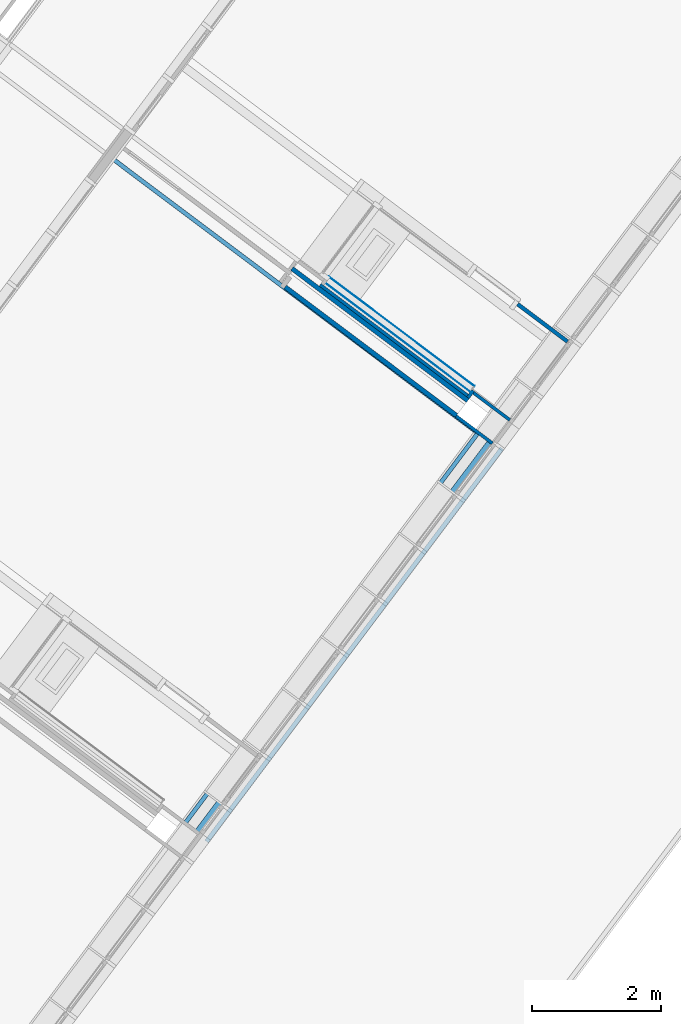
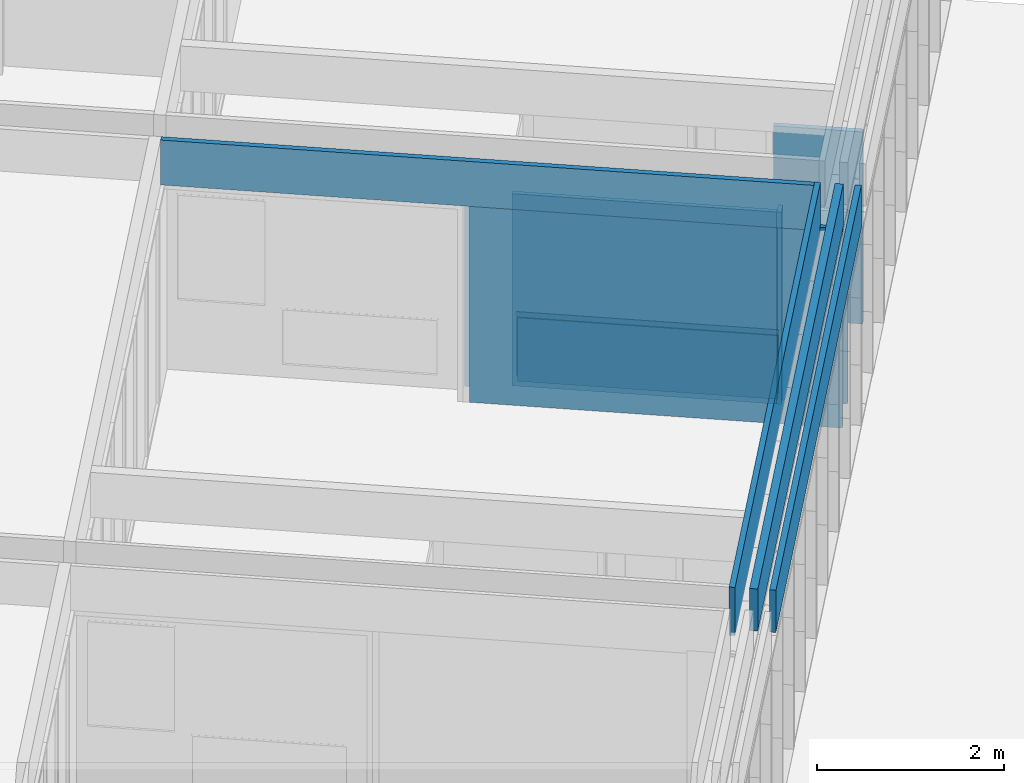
# One storey, part 121 of 243: 13 walls.
"""IFC2X3 building model written with IfcOpenShell, lengths in metres."""

from ifc_helpers import new_model, entity, si_unit, converted_unit, derived_unit, direction, frame, frame_2d, origin, place, context, subcontext, project, spatial, rectangle, extrude, material, layer, layer_set, layer_usage, type_object, element, save


model = new_model("IFC2X3")

# Units and contexts
model_context = context("Model", 3, precision=1e-05, world=origin(), true_north=direction((6.123031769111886e-17, 1.0)))
body_context = subcontext(model_context, "Body", "Model", "MODEL_VIEW")
ifc_project = project(units=[si_unit("LENGTHUNIT", "METRE"), si_unit("AREAUNIT", "SQUARE_METRE"), si_unit("VOLUMEUNIT", "CUBIC_METRE"), converted_unit("PLANEANGLEUNIT", "DEGREE", entity("IfcRatioMeasure", 0.017453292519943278), si_unit("PLANEANGLEUNIT", "RADIAN"), dimensions=[0, 0, 0, 0, 0, 0, 0]), si_unit("MASSUNIT", "GRAM", prefix="KILO"), derived_unit("MASSDENSITYUNIT", [(si_unit("MASSUNIT", "GRAM", prefix="KILO"), 1), (si_unit("LENGTHUNIT", "METRE"), -3)]), derived_unit("IONCONCENTRATIONUNIT", [(si_unit("MASSUNIT", "GRAM", prefix="KILO"), 1), (si_unit("LENGTHUNIT", "METRE"), -3)]), derived_unit("MOMENTOFINERTIAUNIT", [(si_unit("LENGTHUNIT", "METRE"), 4)]), si_unit("TIMEUNIT", "SECOND"), si_unit("FREQUENCYUNIT", "HERTZ"), si_unit("THERMODYNAMICTEMPERATUREUNIT", "DEGREE_CELSIUS"), derived_unit("THERMALTRANSMITTANCEUNIT", [(si_unit("MASSUNIT", "GRAM", prefix="KILO"), 1), (si_unit("THERMODYNAMICTEMPERATUREUNIT", "KELVIN"), -1), (si_unit("TIMEUNIT", "SECOND"), -3)]), derived_unit("THERMALCONDUCTANCEUNIT", [(si_unit("MASSUNIT", "GRAM", prefix="KILO"), 1), (si_unit("THERMODYNAMICTEMPERATUREUNIT", "KELVIN"), -1), (si_unit("TIMEUNIT", "SECOND"), -3), (si_unit("LENGTHUNIT", "METRE"), 1)]), derived_unit("VOLUMETRICFLOWRATEUNIT", [(si_unit("LENGTHUNIT", "METRE"), 3), (si_unit("TIMEUNIT", "SECOND"), -1)]), derived_unit("MASSFLOWRATEUNIT", [(si_unit("MASSUNIT", "GRAM", prefix="KILO"), 1), (si_unit("TIMEUNIT", "SECOND"), -1)]), derived_unit("ROTATIONALFREQUENCYUNIT", [(si_unit("TIMEUNIT", "SECOND"), -1)]), si_unit("ELECTRICCURRENTUNIT", "AMPERE"), si_unit("ELECTRICVOLTAGEUNIT", "VOLT"), si_unit("POWERUNIT", "WATT"), si_unit("FORCEUNIT", "NEWTON", prefix="KILO"), si_unit("ILLUMINANCEUNIT", "LUX"), si_unit("LUMINOUSFLUXUNIT", "LUMEN"), si_unit("LUMINOUSINTENSITYUNIT", "CANDELA"), derived_unit("USERDEFINED", [(si_unit("MASSUNIT", "GRAM", prefix="KILO"), -1), (si_unit("LENGTHUNIT", "METRE"), -2), (si_unit("TIMEUNIT", "SECOND"), 3), (si_unit("LUMINOUSFLUXUNIT", "LUMEN"), 1)]), derived_unit("USERDEFINED", [(si_unit("MASSUNIT", "GRAM", prefix="KILO"), 1), (si_unit("TIMEUNIT", "SECOND"), -3), (si_unit("LENGTHUNIT", "METRE"), 3), (si_unit("ELECTRICCURRENTUNIT", "AMPERE"), -2)]), derived_unit("SOUNDPOWERUNIT", [(si_unit("MASSUNIT", "GRAM", prefix="KILO"), 1), (si_unit("TIMEUNIT", "SECOND"), -3), (si_unit("LENGTHUNIT", "METRE"), 2)]), derived_unit("SOUNDPRESSUREUNIT", [(si_unit("MASSUNIT", "GRAM", prefix="KILO"), 1), (si_unit("LENGTHUNIT", "METRE"), -1), (si_unit("TIMEUNIT", "SECOND"), -2)]), derived_unit("LINEARVELOCITYUNIT", [(si_unit("LENGTHUNIT", "METRE"), 1), (si_unit("TIMEUNIT", "SECOND"), -1)]), si_unit("PRESSUREUNIT", "PASCAL"), derived_unit("USERDEFINED", [(si_unit("MASSUNIT", "GRAM", prefix="KILO"), 1), (si_unit("LENGTHUNIT", "METRE"), -2), (si_unit("TIMEUNIT", "SECOND"), -2)]), derived_unit("LINEARFORCEUNIT", [(si_unit("MASSUNIT", "GRAM", prefix="KILO"), 1), (si_unit("TIMEUNIT", "SECOND"), -2)]), derived_unit("PLANARFORCEUNIT", [(si_unit("MASSUNIT", "GRAM", prefix="KILO"), 1), (si_unit("LENGTHUNIT", "METRE"), -1), (si_unit("TIMEUNIT", "SECOND"), -2)]), derived_unit("SPECIFICHEATCAPACITYUNIT", [(si_unit("THERMODYNAMICTEMPERATUREUNIT", "KELVIN"), -1), (si_unit("LENGTHUNIT", "METRE"), 2), (si_unit("TIMEUNIT", "SECOND"), -2)]), derived_unit("HEATINGVALUEUNIT", [(si_unit("LENGTHUNIT", "METRE"), 2), (si_unit("TIMEUNIT", "SECOND"), -2)]), derived_unit("VAPORPERMEABILITYUNIT", [(si_unit("LENGTHUNIT", "METRE"), -1), (si_unit("TIMEUNIT", "SECOND"), 1)]), derived_unit("DYNAMICVISCOSITYUNIT", [(si_unit("MASSUNIT", "GRAM", prefix="KILO"), 1), (si_unit("TIMEUNIT", "SECOND"), -1), (si_unit("LENGTHUNIT", "METRE"), -1)]), derived_unit("THERMALEXPANSIONCOEFFICIENTUNIT", [(si_unit("THERMODYNAMICTEMPERATUREUNIT", "KELVIN"), -1)]), derived_unit("MODULUSOFELASTICITYUNIT", [(si_unit("MASSUNIT", "GRAM", prefix="KILO"), 1), (si_unit("LENGTHUNIT", "METRE"), -1), (si_unit("TIMEUNIT", "SECOND"), -2)]), derived_unit("ISOTHERMALMOISTURECAPACITYUNIT", [(si_unit("LENGTHUNIT", "METRE"), 3), (si_unit("MASSUNIT", "GRAM", prefix="KILO"), -1)]), derived_unit("MOISTUREDIFFUSIVITYUNIT", [(si_unit("TIMEUNIT", "SECOND"), -1), (si_unit("LENGTHUNIT", "METRE"), 2)])], contexts=[model_context])

# Site, building, storey
site_placement = place(None, frame((0.0, 0.0, 235.0), z_axis=(0.0, 0.0, 1.0), x_axis=(-0.7996477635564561, 0.6004693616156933, 0.0)))
site = spatial("IfcSite", under=ifc_project, at=site_placement, Name="Default", CompositionType="ELEMENT")
building_placement = place(site_placement, origin())
building = spatial("IfcBuilding", under=site, at=building_placement, CompositionType="ELEMENT")
storey_placement = place(building_placement, origin())
storey = spatial("IfcBuildingStorey", under=building, at=storey_placement, Name="P0- Escola", CompositionType="ELEMENT", Elevation=0.0)

# Walls
ifc_material_1 = material(Name="_Ceràmica- ENV")
ifc_layer_1 = layer(ifc_material_1, 0.09)
ifc_layer_set_1 = layer_set([ifc_layer_1], Name="Muro básico:ENV- Ceràmic- 9 cm")
ifc_layer_usage_1 = layer_usage(ifc_layer_set_1, "AXIS2", "POSITIVE", -0.045)
wall_type_1 = type_object("IfcWallType", Name="Muro básico:ENV- Ceràmic- 9 cm", PredefinedType="STANDARD", material=ifc_layer_set_1)
wall_1_placement = place(storey_placement, frame((5.985147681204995, -33.99019175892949, 2.6), z_axis=(0.0, 0.0, 1.0), x_axis=(0.0, 1.0, 0.0)))
element("IfcWallStandardCase", 1, at=wall_1_placement, inside=storey, type_object=wall_type_1, material=ifc_layer_usage_1, Name="Muro básico:ENV- Ceràmic- 9 cm", ObjectType="Muro básico:ENV- Ceràmic- 9 cm", context=body_context, shape_type="SweptSolid", body=[
    extrude(rectangle(XDim=7.6000000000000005, YDim=0.08999999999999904, at=frame_2d((3.8000000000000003, 0.0), x_axis=(-1.0, 0.0))), origin(), (0.0, 0.0, 1.0), 0.5500000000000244),
])
ifc_material_2 = material(Name="_Guix laminat- ENV")
ifc_layer_2 = layer(ifc_material_2, 0.02)
ifc_material_3 = material(Name="_Aillament")
ifc_layer_3 = layer(ifc_material_3, 0.045)
ifc_layer_set_2 = layer_set([ifc_layer_2, ifc_layer_3], Name="Muro básico:REV- Guix Laminat Extradossat- Aillament- T1- 6,5 cm")
ifc_layer_usage_2 = layer_usage(ifc_layer_set_2, "AXIS2", "NEGATIVE", 0.032499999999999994)
wall_type_2 = type_object("IfcWallType", Name="Muro básico:REV- Guix Laminat Extradossat- Aillament- T1- 6,5 cm", PredefinedType="STANDARD", material=ifc_layer_set_2)
wall_2_placement = place(storey_placement, frame((6.250147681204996, -33.95769175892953, 2.5649999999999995)))
element("IfcWallStandardCase", 2, at=wall_2_placement, inside=storey, type_object=wall_type_2, material=ifc_layer_usage_2, Name="Muro básico:REV- Guix Laminat Extradossat- Aillament- T1- 6,5 cm", ObjectType="Muro básico:REV- Guix Laminat Extradossat- Aillament- T1- 6,5 cm", context=body_context, shape_type="SweptSolid", body=[
    extrude(rectangle(XDim=7.029999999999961, YDim=0.06500000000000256, at=frame_2d((3.5149999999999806, 1.5612511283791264e-16), x_axis=(-1.0, 0.0))), origin(), (0.0, 0.0, 1.0), 0.5850000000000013),
])
ifc_layer_usage_3 = layer_usage(ifc_layer_set_2, "AXIS2", "POSITIVE", -0.032499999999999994)
wall_3_placement = place(storey_placement, frame((6.217647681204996, -33.9901917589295, 2.52), z_axis=(0.0, 0.0, 1.0), x_axis=(0.0, 1.0, 0.0)))
element("IfcWallStandardCase", 3, at=wall_3_placement, inside=storey, type_object=wall_type_2, material=ifc_layer_usage_3, Name="Muro básico:REV- Guix Laminat Extradossat- Aillament- T1- 6,5 cm", ObjectType="Muro básico:REV- Guix Laminat Extradossat- Aillament- T1- 6,5 cm", context=body_context, shape_type="SweptSolid", body=[
    extrude(rectangle(XDim=7.6000000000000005, YDim=0.06500000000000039, at=frame_2d((3.8000000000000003, 0.0), x_axis=(-1.0, 0.0))), origin(), (0.0, 0.0, 1.0), 0.6300000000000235),
])
ifc_layer_4 = layer(ifc_material_2, 0.015)
ifc_material_4 = material(Name="_Genèric perfils, muntants, rastrells")
ifc_layer_5 = layer(ifc_material_4, 0.055)
ifc_layer_set_3 = layer_set([ifc_layer_4, ifc_layer_5], Name="Muro básico:ENV- Guix Laminat una cara- 7 cm")
ifc_layer_usage_4 = layer_usage(ifc_layer_set_3, "AXIS2", "NEGATIVE", 0.035)
wall_type_3 = type_object("IfcWallType", Name="Muro básico:ENV- Guix Laminat una cara- 7 cm", PredefinedType="STANDARD", material=ifc_layer_set_3)
wall_4_placement = place(storey_placement, frame((6.645147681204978, -33.975191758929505, 0.0)))
element("IfcWallStandardCase", 4, at=wall_4_placement, inside=storey, type_object=wall_type_3, material=ifc_layer_usage_4, Name="Muro básico:ENV- Guix Laminat una cara- 7 cm", ObjectType="Muro básico:ENV- Guix Laminat una cara- 7 cm", context=body_context, shape_type="SweptSolid", body=[
    extrude(rectangle(XDim=3.312999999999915, YDim=0.07000000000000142, at=frame_2d((1.6564999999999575, -8.673617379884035e-17), x_axis=(-1.0, 0.0))), origin(), (0.0, 0.0, 1.0), 2.565),
])
ifc_layer_usage_5 = layer_usage(ifc_layer_set_3, "AXIS2", "POSITIVE", -0.035)
wall_5_placement = place(storey_placement, frame((6.6451476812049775, -34.26519175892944, 0.0)))
element("IfcWallStandardCase", 5, at=wall_5_placement, inside=storey, type_object=wall_type_3, material=ifc_layer_usage_5, Name="Muro básico:ENV- Guix Laminat una cara- 7 cm", ObjectType="Muro básico:ENV- Guix Laminat una cara- 7 cm", context=body_context, shape_type="SweptSolid", body=[
    extrude(rectangle(XDim=3.3989999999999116, YDim=0.07000000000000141, at=frame_2d((1.6994999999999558, 0.0), x_axis=(-1.0, 0.0))), origin(), (0.0, 0.0, 1.0), 2.565),
])
ifc_layer_6 = layer(ifc_material_2, 0.015)
ifc_layer_7 = layer(ifc_material_3, 0.035)
ifc_layer_set_4 = layer_set([ifc_layer_6, ifc_layer_7], Name="Muro básico:REV- Guix Laminat Extradossat- Aïllament- T1- 5 cm")
ifc_layer_usage_6 = layer_usage(ifc_layer_set_4, "AXIS2", "NEGATIVE", 0.025)
wall_type_4 = type_object("IfcWallType", Name="Muro básico:REV- Guix Laminat Extradossat- Aïllament- T1- 5 cm", PredefinedType="STANDARD", material=ifc_layer_set_4)
wall_6_placement = place(storey_placement, frame((5.945147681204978, -33.965191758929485, 0.0)))
element("IfcWallStandardCase", 6, at=wall_6_placement, inside=storey, type_object=wall_type_4, material=ifc_layer_usage_6, Name="Muro básico:REV- Guix Laminat Extradossat- Aïllament- T1- 5 cm", ObjectType="Muro básico:REV- Guix Laminat Extradossat- Aïllament- T1- 5 cm", context=body_context, shape_type="SweptSolid", body=[
    extrude(rectangle(XDim=0.7000000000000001, YDim=0.0499999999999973, at=frame_2d((0.35000000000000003, -6.019490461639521e-16), x_axis=(-1.0, 0.0))), origin(), (0.0, 0.0, 1.0), 2.6),
])
ifc_material_5 = material(Name="_Fusta massisa- T1-  REV- PAV")
ifc_layer_8 = layer(ifc_material_5, 0.06)
ifc_layer_set_5 = layer_set([ifc_layer_8], Name="Muro básico:REV- Fusta- T1- 6 cm")
ifc_layer_usage_7 = layer_usage(ifc_layer_set_5, "AXIS2", "NEGATIVE", 0.03)
wall_type_5 = type_object("IfcWallType", Name="Muro básico:REV- Fusta- T1- 6 cm", PredefinedType="STANDARD", material=ifc_layer_set_5)
wall_7_placement = place(storey_placement, frame((5.9614476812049, -35.92019175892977, 0.0)))
element("IfcWallStandardCase", 7, at=wall_7_placement, inside=storey, type_object=wall_type_5, material=ifc_layer_usage_7, Name="Muro básico:REV- Fusta- T1- 6 cm", ObjectType="Muro básico:REV- Fusta- T1- 6 cm", context=body_context, shape_type="SweptSolid", body=[
    extrude(rectangle(XDim=0.9627000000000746, YDim=0.06000000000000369, at=frame_2d((0.4813500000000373, 0.0), x_axis=(-1.0, 0.0))), origin(), (0.0, 0.0, 1.0), 2.5049999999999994),
])
ifc_material_6 = material(Name="_Vinílic- REV")
ifc_layer_9 = layer(ifc_material_6, 0.01)
ifc_layer_set_6 = layer_set([ifc_layer_9], Name="Muro básico:REV- Vinilic- T1- 1 cm")
ifc_layer_usage_8 = layer_usage(ifc_layer_set_6, "AXIS2", "NEGATIVE", 0.005)
wall_type_6 = type_object("IfcWallType", Name="Muro básico:REV- Vinilic- T1- 1 cm", PredefinedType="STANDARD", material=ifc_layer_set_6)
wall_8_placement = place(storey_placement, frame((9.495147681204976, -34.39519175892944, 0.0), z_axis=(0.0, 0.0, 1.0), x_axis=(-1.0, 0.0, 0.0)))
element("IfcWallStandardCase", 8, at=wall_8_placement, inside=storey, type_object=wall_type_6, material=ifc_layer_usage_8, Name="Muro básico:REV- Vinilic- T1- 1 cm", ObjectType="Muro básico:REV- Vinilic- T1- 1 cm", context=body_context, shape_type="SweptSolid", body=[
    extrude(rectangle(XDim=2.799999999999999, YDim=0.009999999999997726, at=frame_2d((1.3999999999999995, 5.685556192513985e-16), x_axis=(-1.0, 0.0))), origin(), (0.0, 0.0, 1.0), 0.8299999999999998),
])
wall_9_placement = place(storey_placement, frame((9.520147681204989, -34.50519175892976, 0.0), z_axis=(0.0, 0.0, 1.0), x_axis=(-1.0, 0.0, 0.0)))
element("IfcWallStandardCase", 9, at=wall_9_placement, inside=storey, type_object=wall_type_6, material=ifc_layer_usage_8, Name="Muro básico:REV- Vinilic- T1- 1 cm", ObjectType="Muro básico:REV- Vinilic- T1- 1 cm", context=body_context, shape_type="SweptSolid", body=[
    extrude(rectangle(XDim=2.824999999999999, YDim=0.009999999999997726, at=frame_2d((1.4124999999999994, 0.0), x_axis=(-1.0, 0.0))), origin(), (0.0, 0.0, 1.0), 0.8299999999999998),
])
ifc_layer_10 = layer(ifc_material_6, 0.005)
ifc_layer_11 = layer(ifc_material_2, 0.015)
ifc_layer_12 = layer(ifc_material_3, 0.03)
ifc_layer_set_7 = layer_set([ifc_layer_10, ifc_layer_11, ifc_layer_12], Name="Muro básico:REV- Guix Laminat Extradossat- Acabat Vinilic- T1- 5 cm 2")
ifc_layer_usage_9 = layer_usage(ifc_layer_set_7, "AXIS2", "POSITIVE", -0.024999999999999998)
wall_type_7 = type_object("IfcWallType", Name="Muro básico:REV- Guix Laminat Extradossat- Acabat Vinilic- T1- 5 cm 2", PredefinedType="STANDARD", material=ifc_layer_set_7)
wall_10_placement = place(storey_placement, frame((5.945147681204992, -34.41519175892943, 0.0)))
element("IfcWallStandardCase", 10, at=wall_10_placement, inside=storey, type_object=wall_type_7, material=ifc_layer_usage_9, Name="Muro básico:REV- Guix Laminat Extradossat- Acabat Vinilic- T1- 5 cm 2", ObjectType="Muro básico:REV- Guix Laminat Extradossat- Acabat Vinilic- T1- 5 cm 2", context=body_context, shape_type="SweptSolid", body=[
    extrude(rectangle(XDim=0.699999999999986, YDim=0.0499999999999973, at=frame_2d((0.349999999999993, 0.0), x_axis=(-1.0, 0.0))), origin(), (0.0, 0.0, 1.0), 2.5050000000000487),
])
wall_11_placement = place(storey_placement, frame((6.670147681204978, -34.44019175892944, 0.0), z_axis=(0.0, 0.0, 1.0), x_axis=(0.0, 1.0, 0.0)))
element("IfcWallStandardCase", 11, at=wall_11_placement, inside=storey, type_object=wall_type_7, material=ifc_layer_usage_9, Name="Muro básico:REV- Guix Laminat Extradossat- Acabat Vinilic- T1- 5 cm 2", ObjectType="Muro básico:REV- Guix Laminat Extradossat- Acabat Vinilic- T1- 5 cm 2", context=body_context, shape_type="SweptSolid", body=[
    extrude(rectangle(XDim=0.1399999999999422, YDim=0.04999999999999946, at=frame_2d((0.0699999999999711, 0.0), x_axis=(-1.0, 0.0))), origin(), (0.0, 0.0, 1.0), 2.5050000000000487),
])
wall_12_placement = place(storey_placement, frame((6.695147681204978, -34.32519175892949, 0.0)))
element("IfcWallStandardCase", 12, at=wall_12_placement, inside=storey, type_object=wall_type_7, material=ifc_layer_usage_9, Name="Muro básico:REV- Guix Laminat Extradossat- Acabat Vinilic- T1- 5 cm 2", ObjectType="Muro básico:REV- Guix Laminat Extradossat- Acabat Vinilic- T1- 5 cm 2", context=body_context, shape_type="SweptSolid", body=[
    extrude(rectangle(XDim=2.8499999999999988, YDim=0.0499999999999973, at=frame_2d((1.4249999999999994, 0.0), x_axis=(-1.0, 0.0))), origin(), (0.0, 0.0, 1.0), 2.5050000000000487),
])
ifc_material_7 = material(Name="_Alumini- T1- Perfil")
ifc_layer_13 = layer(ifc_material_7, 0.01)
ifc_layer_14 = layer(ifc_material_3, 0.06)
ifc_layer_set_8 = layer_set([ifc_layer_13, ifc_layer_14], Name="Muro básico:REV- Xapa + aillament")
ifc_layer_usage_10 = layer_usage(ifc_layer_set_8, "AXIS2", "POSITIVE", -0.035)
wall_type_8 = type_object("IfcWallType", Name="Muro básico:REV- Xapa + aillament", PredefinedType="STANDARD", material=ifc_layer_set_8)
wall_13_placement = place(storey_placement, frame((5.780147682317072, -26.390191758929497, 2.6), z_axis=(0.0, 0.0, 1.0), x_axis=(0.0, -1.0, 0.0)))
element("IfcWallStandardCase", 13, at=wall_13_placement, inside=storey, type_object=wall_type_8, material=ifc_layer_usage_10, Name="Muro básico:REV- Xapa + aillament", ObjectType="Muro básico:REV- Xapa + aillament", context=body_context, shape_type="SweptSolid", body=[
    extrude(rectangle(XDim=7.6000000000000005, YDim=0.06999999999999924, at=frame_2d((3.8000000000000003, 0.0), x_axis=(-1.0, 0.0))), origin(), (0.0, 0.0, 1.0), 0.5500000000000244),
])

save(model, "model.ifc")
